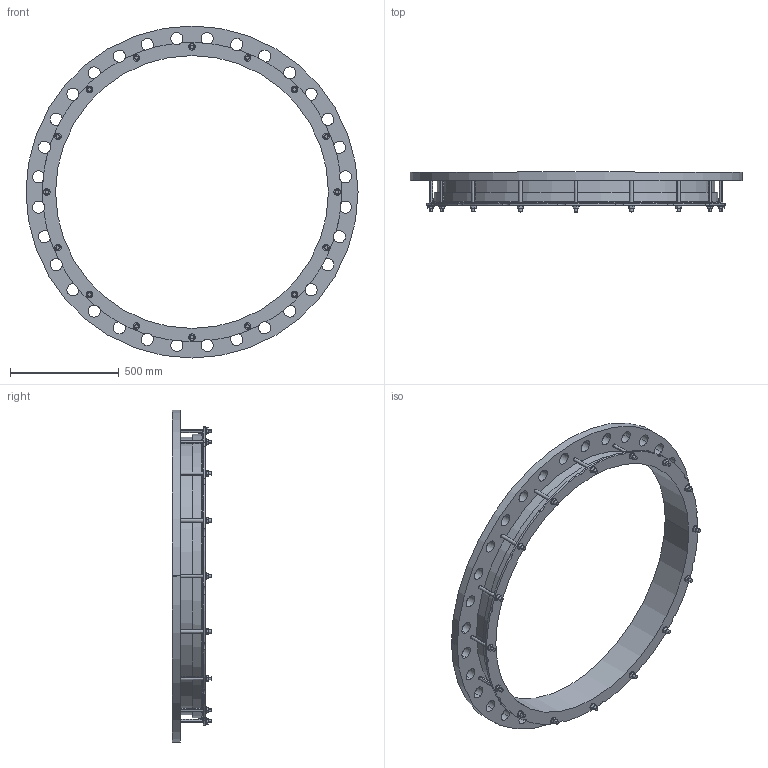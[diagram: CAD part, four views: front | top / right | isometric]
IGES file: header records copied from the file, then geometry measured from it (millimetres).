
Start section:  PTC IGES file: 1255x1200pn25_16not.igs
Global section: file name: 1255x1200pn25_16not.igs; native system: Creo Parametric by PTC Inc.; preprocessor: 2016130; author: mfairey; organization: Unknown; date: 20190404.155013; units: millimetre
Bounding box: 1530 x 182 x 1530 mm (x, y, z)
Surface area: 2988832.2 mm2 (no closed solid volume)
Topology: 0 solids, 0 shells, 352 faces, 1892 edges, 1892 vertices
Faces by surface type: revolution 204, bspline 148
